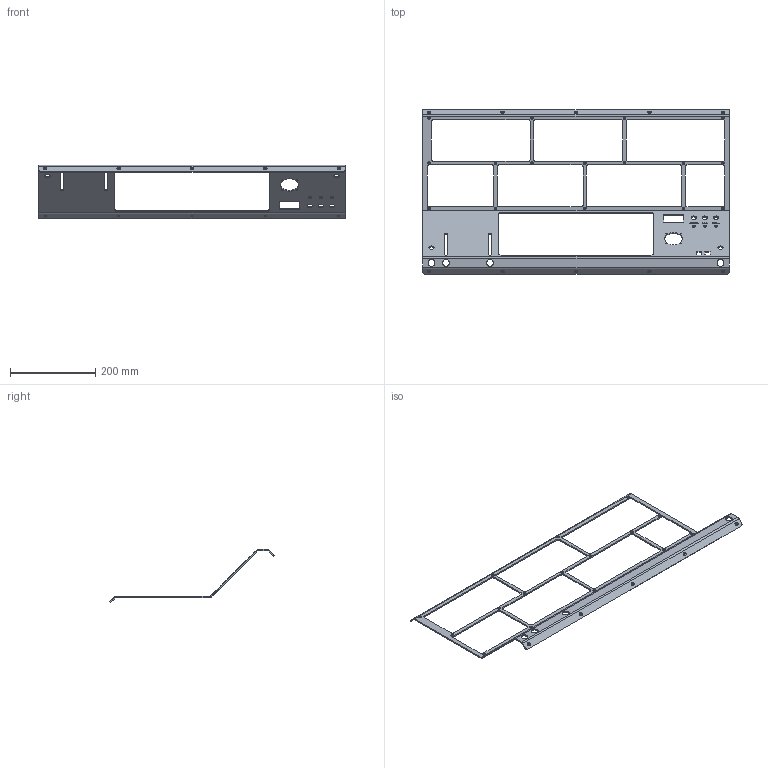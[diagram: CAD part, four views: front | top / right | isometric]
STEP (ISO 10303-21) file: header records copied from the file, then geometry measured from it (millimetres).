
FILE_DESCRIPTION(/* description */ (''),/* implementation_level */ '2;1');
FILE_NAME(/* name */ 'C:/Users/anton/Documents/Kerbal Space Program/Kerbal_Control_Panel/KCP2/CAD/ForManufacture/casing/Panel_TopPlate_v96_Folded.step',/* time_stamp */ '2020-11-17T20:07:53-08:00',/* author */ (''),/* organization */ (''),/* preprocessor_version */ 'ST-DEVELOPER v18.1',/* originating_system */ 'Autodesk Translation Framework v9.3.0.1241',/* authorisation */ '');
FILE_SCHEMA (('AUTOMOTIVE_DESIGN { 1 0 10303 214 3 1 1 }'));
Length unit declared in the file: millimetre
Products named in the file (2): Top Plate; Labels
Assembly tree (1 placements, depth 2):
  Top Plate
    Labels
Bounding box: 717 x 385.74 x 124.99 mm (x, y, z)
Volume: 377177.1 mm3; surface area: 278332.5 mm2
Topology: 13 solids, 13 shells, 390 faces, 1034 edges, 670 vertices
Faces by surface type: plane 196, cylinder 105, bspline 63, cone 26
Full cylindrical faces by diameter (mm): 2.5 x4, 3.4 x16, 4.496 x10, 8.25 x3, 12 x5, 16 x4, 41 x1
Entity records: 13014 total; most frequent: CARTESIAN_POINT 3169, ORIENTED_EDGE 2068, DIRECTION 1806, EDGE_CURVE 1034, LINE 672, VECTOR 672, VERTEX_POINT 670, AXIS2_PLACEMENT_3D 567
